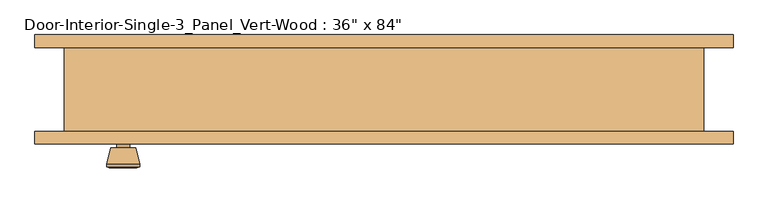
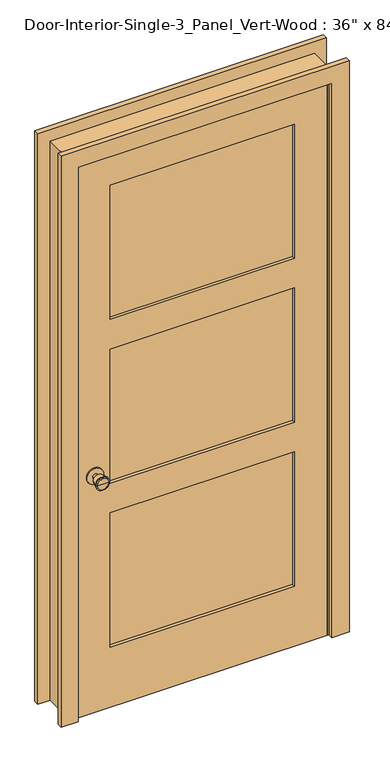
"""IFC4 building model written with IfcOpenShell, lengths in millimetres: door geometry."""

from ifc_helpers import new_model, si_unit, point, frame, frame_2d, origin, place, context, project, spatial, polyline, circle_curve, trimmed, segment, composite_curve, outline, extrude, faceted_brep, source, transform, mapped, element, save
from ifc_brep_helpers import plane_surface, cylinder_surface, revolved_surface, advanced_brep


def door_78a51fc2(model_context):
    return source(origin(), model_context, "Body", "SolidModel", [
        advanced_brep(
        [(-393.7, -19.4, 914.4), (-403.7, -19.4, 914.4), (-383.7, -19.4, 914.4), (-373.2241324, 29.6, 914.4), (-414.1758676, 29.6, 914.4), (-393.7, 29.6, 914.4), (-368.7, 27.7721319, 914.4), (-418.7, 27.7721319, 914.4), (-368.7, 24.3084537, 914.4), (-418.7, 24.3084537, 914.4), (-375.063764, -0.4, 914.4), (-412.336236, -0.4, 914.4), (-383.7, -0.4, 914.4), (-403.7, -0.4, 914.4)],
        [
            (0, 1),
            (1, 2, circle_curve(frame((-393.7, -19.4, 914.4), z_axis=(0.0, -1.0, 0.0), x_axis=(-1.0, 0.0, 0.0)), 10.0)),
            (2, 0),
            (2, 1, circle_curve(frame((-393.7, -19.4, 914.4), z_axis=(0.0, -1.0, 0.0), x_axis=(-1.0, 0.0, 0.0)), 10.0)),
            (3, 4, circle_curve(frame((-393.7, 29.6, 914.4), z_axis=(0.0, 1.0, 0.0), x_axis=(-1.0, 0.0, 0.0)), 20.4758676)),
            (4, 5),
            (5, 3),
            (4, 3, circle_curve(frame((-393.7, 29.6, 914.4), z_axis=(0.0, 1.0, 0.0), x_axis=(-1.0, 0.0, 0.0)), 20.4758676)),
            (6, 7, circle_curve(frame((-393.7, 27.7721319, 914.4), z_axis=(0.0, 1.0, 0.0), x_axis=(-1.0, 0.0, 0.0)), 25.0)),
            (7, 4),
            (3, 6),
            (7, 6, circle_curve(frame((-393.7, 27.7721319, 914.4), z_axis=(0.0, 1.0, 0.0), x_axis=(-1.0, 0.0, 0.0)), 25.0)),
            (8, 9, circle_curve(frame((-393.7, 24.3084537, 914.4), z_axis=(0.0, 1.0, 0.0), x_axis=(-1.0, 0.0, 0.0)), 25.0)),
            (9, 7),
            (6, 8),
            (9, 8, circle_curve(frame((-393.7, 24.3084537, 914.4), z_axis=(0.0, 1.0, 0.0), x_axis=(-1.0, 0.0, 0.0)), 25.0)),
            (10, 11, circle_curve(frame((-393.7, -0.4, 914.4), z_axis=(0.0, 1.0, 0.0), x_axis=(-1.0, 0.0, 0.0)), 18.636236)),
            (11, 9),
            (8, 10),
            (11, 10, circle_curve(frame((-393.7, -0.4, 914.4), z_axis=(0.0, 1.0, 0.0), x_axis=(-1.0, 0.0, 0.0)), 18.636236)),
            (12, 13, circle_curve(frame((-393.7, -0.4, 914.4), z_axis=(0.0, 1.0, 0.0), x_axis=(-1.0, 0.0, 0.0)), 10.0)),
            (13, 11),
            (10, 12),
            (13, 12, circle_curve(frame((-393.7, -0.4, 914.4), z_axis=(0.0, 1.0, 0.0), x_axis=(-1.0, 0.0, 0.0)), 10.0)),
            (1, 13),
            (12, 2),
        ],
        [
            plane_surface(frame((-393.7, -19.4, 914.4), z_axis=(0.0, -1.0, 0.0), x_axis=(-1.0, 0.0, 0.0))),
            plane_surface(frame((-393.7, 29.6, 914.4), z_axis=(0.0, 1.0, 0.0), x_axis=(-1.0, 0.0, 0.0))),
            revolved_surface(polyline([(-414.1758676, 29.6, 914.4), (-418.7, 27.7721319, 914.4)]), (-393.7, -19.4, 914.4), (0.0, -1.0, 0.0)),
            cylinder_surface(frame((-393.7, -19.4, 914.4), z_axis=(0.0, -1.0, 0.0), x_axis=(-1.0, 0.0, 0.0)), 25.0),
            revolved_surface(polyline([(-418.7, 24.3084537, 914.4), (-412.336236, -0.4, 914.4)]), (-393.7, -19.4, 914.4), (0.0, -1.0, 0.0)),
            plane_surface(frame((-393.7, -0.4, 914.4), z_axis=(0.0, -1.0, 0.0), x_axis=(-1.0, 0.0, 0.0))),
            cylinder_surface(frame((-393.7, -19.4, 914.4), z_axis=(0.0, -1.0, 0.0), x_axis=(-1.0, 0.0, 0.0)), 10.0),
        ],
        [
            (0, [[1, 2, 3]]),
            (0, [[-3, 4, -1]]),
            (1, [[5, 6, 7]]),
            (1, [[8, -7, -6]]),
            (2, [[9, 10, -5, 11]]),
            (2, [[12, -11, -8, -10]]),
            (3, [[13, 14, -9, 15]]),
            (3, [[16, -15, -12, -14]]),
            (4, [[17, 18, -13, 19]]),
            (4, [[20, -19, -16, -18]]),
            (5, [[21, 22, -17, 23]]),
            (5, [[24, -23, -20, -22]]),
            (6, [[-2, 25, -21, 26]]),
            (6, [[-4, -26, -24, -25]]),
        ],
    ),
        extrude(outline(composite_curve([segment(trimmed(circle_curve(frame_2d((914.4, -393.7)), 30.0), [point((914.4, -423.7))], [point((914.4, -363.7))], False, "CARTESIAN"), True, "CONTINUOUS"), segment(trimmed(circle_curve(frame_2d((914.4, -393.7)), 30.0), [point((914.4, -363.7))], [point((914.4, -423.7))], False, "CARTESIAN"), True, "CONTINUOUS")], self_intersect=False)), frame((0.0, -25.4, 0.0), z_axis=(0.0, 1.0, 0.0), x_axis=(0.0, 0.0, 1.0)), (0.0, 0.0, 1.0), 6.0),
        advanced_brep(
        [(-393.7, -66.325, 914.4), (-383.7, -66.325, 914.4), (-403.7, -66.325, 914.4), (-373.2241324, -115.325, 914.4), (-393.7, -115.325, 914.4), (-414.1758676, -115.325, 914.4), (-368.7, -113.4971319, 914.4), (-418.7, -113.4971319, 914.4), (-368.7, -110.0334537, 914.4), (-418.7, -110.0334537, 914.4), (-375.063764, -85.325, 914.4), (-412.336236, -85.325, 914.4), (-383.7, -85.325, 914.4), (-403.7, -85.325, 914.4)],
        [
            (0, 1),
            (1, 2, circle_curve(frame((-393.7, -66.325, 914.4), z_axis=(0.0, 1.0, 0.0), x_axis=(-1.0, 0.0, 0.0)), 10.0)),
            (2, 0),
            (2, 1, circle_curve(frame((-393.7, -66.325, 914.4), z_axis=(0.0, 1.0, 0.0), x_axis=(-1.0, 0.0, 0.0)), 10.0)),
            (3, 4),
            (4, 5),
            (5, 3, circle_curve(frame((-393.7, -115.325, 914.4), z_axis=(0.0, -1.0, 0.0), x_axis=(-1.0, 0.0, 0.0)), 20.4758676)),
            (3, 5, circle_curve(frame((-393.7, -115.325, 914.4), z_axis=(0.0, -1.0, 0.0), x_axis=(-1.0, 0.0, 0.0)), 20.4758676)),
            (6, 3),
            (5, 7),
            (7, 6, circle_curve(frame((-393.7, -113.4971319, 914.4), z_axis=(0.0, -1.0, 0.0), x_axis=(-1.0, 0.0, 0.0)), 25.0)),
            (6, 7, circle_curve(frame((-393.7, -113.4971319, 914.4), z_axis=(0.0, -1.0, 0.0), x_axis=(-1.0, 0.0, 0.0)), 25.0)),
            (8, 6),
            (7, 9),
            (9, 8, circle_curve(frame((-393.7, -110.0334537, 914.4), z_axis=(0.0, -1.0, 0.0), x_axis=(-1.0, 0.0, 0.0)), 25.0)),
            (8, 9, circle_curve(frame((-393.7, -110.0334537, 914.4), z_axis=(0.0, -1.0, 0.0), x_axis=(-1.0, 0.0, 0.0)), 25.0)),
            (10, 8),
            (9, 11),
            (11, 10, circle_curve(frame((-393.7, -85.325, 914.4), z_axis=(0.0, -1.0, 0.0), x_axis=(-1.0, 0.0, 0.0)), 18.636236)),
            (10, 11, circle_curve(frame((-393.7, -85.325, 914.4), z_axis=(0.0, -1.0, 0.0), x_axis=(-1.0, 0.0, 0.0)), 18.636236)),
            (12, 10),
            (11, 13),
            (13, 12, circle_curve(frame((-393.7, -85.325, 914.4), z_axis=(0.0, -1.0, 0.0), x_axis=(-1.0, 0.0, 0.0)), 10.0)),
            (12, 13, circle_curve(frame((-393.7, -85.325, 914.4), z_axis=(0.0, -1.0, 0.0), x_axis=(-1.0, 0.0, 0.0)), 10.0)),
            (1, 12),
            (13, 2),
        ],
        [
            plane_surface(frame((-393.7, -66.325, 914.4), z_axis=(0.0, 1.0, 0.0), x_axis=(-1.0, 0.0, 0.0))),
            plane_surface(frame((-393.7, -115.325, 914.4), z_axis=(0.0, -1.0, 0.0), x_axis=(-1.0, 0.0, 0.0))),
            revolved_surface(polyline([(-414.1758676, -115.325, 914.4), (-418.7, -113.4971319, 914.4)]), (-393.7, -66.325, 914.4), (0.0, 1.0, 0.0)),
            cylinder_surface(frame((-393.7, -66.325, 914.4), z_axis=(0.0, 1.0, 0.0), x_axis=(-1.0, 0.0, 0.0)), 25.0),
            revolved_surface(polyline([(-418.7, -110.0334537, 914.4), (-412.336236, -85.325, 914.4)]), (-393.7, -66.325, 914.4), (0.0, 1.0, 0.0)),
            plane_surface(frame((-393.7, -85.325, 914.4), z_axis=(0.0, 1.0, 0.0), x_axis=(-1.0, 0.0, 0.0))),
            cylinder_surface(frame((-393.7, -66.325, 914.4), z_axis=(0.0, 1.0, 0.0), x_axis=(-1.0, 0.0, 0.0)), 10.0),
        ],
        [
            (0, [[1, 2, 3]]),
            (0, [[-3, 4, -1]]),
            (1, [[5, 6, 7]]),
            (1, [[-6, -5, 8]]),
            (2, [[9, -7, 10, 11]]),
            (2, [[-10, -8, -9, 12]]),
            (3, [[13, -11, 14, 15]]),
            (3, [[-14, -12, -13, 16]]),
            (4, [[17, -15, 18, 19]]),
            (4, [[-18, -16, -17, 20]]),
            (5, [[21, -19, 22, 23]]),
            (5, [[-22, -20, -21, 24]]),
            (6, [[25, -23, 26, -2]]),
            (6, [[-26, -24, -25, -4]]),
        ],
    ),
        extrude(outline(composite_curve([segment(trimmed(circle_curve(frame_2d((914.4, -393.7)), 30.0), [point((914.4, -423.7))], [point((914.4, -363.7))], False, "CARTESIAN"), True, "CONTINUOUS"), segment(trimmed(circle_curve(frame_2d((914.4, -393.7)), 30.0), [point((914.4, -363.7))], [point((914.4, -423.7))], False, "CARTESIAN"), True, "CONTINUOUS")], self_intersect=False)), frame((0.0, -66.325, 0.0), z_axis=(0.0, 1.0, 0.0), x_axis=(0.0, 0.0, 1.0)), (0.0, 0.0, 1.0), 6.0),
        extrude(outline(polyline([(336.55, -37.0416667), (336.55, -48.6833333), (-336.55, -48.6833333), (-336.55, -37.0416667), (336.55, -37.0416667)])), frame((0.0, 0.0, 1496.4833333), z_axis=(0.0, 0.0, 1.0), x_axis=(1.0, 0.0, 0.0)), (0.0, 0.0, 1.0), 518.0541667),
        extrude(outline(polyline([(336.55, -37.0416667), (336.55, -48.6833333), (-336.55, -48.6833333), (-336.55, -37.0416667), (336.55, -37.0416667)])), frame((0.0, 0.0, 231.775), z_axis=(0.0, 0.0, 1.0), x_axis=(1.0, 0.0, 0.0)), (0.0, 0.0, 1.0), 518.0541667),
        extrude(outline(polyline([(336.55, -37.0416667), (336.55, -48.6833333), (-336.55, -48.6833333), (-336.55, -37.0416667), (336.55, -37.0416667)])), frame((0.0, 0.0, 864.1291667), z_axis=(0.0, 0.0, 1.0), x_axis=(1.0, 0.0, 0.0)), (0.0, 0.0, 1.0), 518.0541667),
        extrude(outline(polyline([(2133.6, -457.2), (0.0, -457.2), (0.0, 457.2), (2133.6, 457.2), (2133.6, -457.2)]), holes=[polyline([(2014.5375, -336.55), (2014.5375, 336.55), (1496.4833333, 336.55), (1496.4833333, -336.55), (2014.5375, -336.55)]), polyline([(749.8291667, -336.55), (749.8291667, 336.55), (231.775, 336.55), (231.775, -336.55), (749.8291667, -336.55)]), polyline([(1382.1833333, -336.55), (1382.1833333, 336.55), (864.1291667, 336.55), (864.1291667, -336.55), (1382.1833333, -336.55)])]), frame((0.0, -60.325, 0.0), z_axis=(0.0, 1.0, 0.0), x_axis=(0.0, 0.0, 1.0)), (0.0, 0.0, 1.0), 34.925),
        faceted_brep([(482.6, -60.325, 0.0), (457.2, -60.325, 0.0), (457.2, -25.4, 0.0), (444.5, -25.4, 0.0), (444.5, 9.525, 0.0), (457.2, 9.525, 0.0), (457.2, 66.675, 0.0), (482.6, 66.675, 0.0), (482.6, 66.675, 2159.0), (482.6, -60.325, 2159.0), (457.2, 66.675, 2133.6), (-457.2, 66.675, 2133.6), (-457.2, 66.675, 0.0), (-482.6, 66.675, 0.0), (-482.6, 66.675, 2159.0), (457.2, 9.525, 2133.6), (444.5, 9.525, 2120.9), (-444.5, 9.525, 2120.9), (-444.5, 9.525, 0.0), (-457.2, 9.525, 0.0), (-457.2, 9.525, 2133.6), (444.5, -25.4, 2120.9), (457.2, -25.4, 2133.6), (-457.2, -25.4, 2133.6), (-457.2, -25.4, 0.0), (-444.5, -25.4, 0.0), (-444.5, -25.4, 2120.9), (457.2, -60.325, 2133.6), (-482.6, -60.325, 2159.0), (-482.6, -60.325, 0.0), (-457.2, -60.325, 0.0), (-457.2, -60.325, 2133.6)], [[[0, 1, 2, 3, 4, 5, 6, 7]], [[7, 8, 9, 0]], [[6, 10, 11, 12, 13, 14, 8, 7]], [[5, 15, 10, 6]], [[4, 16, 17, 18, 19, 20, 15, 5]], [[3, 21, 16, 4]], [[2, 22, 23, 24, 25, 26, 21, 3]], [[1, 27, 22, 2]], [[0, 9, 28, 29, 30, 31, 27, 1]], [[8, 14, 28, 9]], [[15, 20, 11, 10]], [[21, 26, 17, 16]], [[27, 31, 23, 22]], [[29, 13, 12, 19, 18, 25, 24, 30]], [[14, 13, 29, 28]], [[20, 19, 12, 11]], [[26, 25, 18, 17]], [[31, 30, 24, 23]]]),
        extrude(outline(polyline([(0.0, 527.05), (2203.45, 527.05), (2203.45, -527.05), (0.0, -527.05), (0.0, -463.55), (2139.95, -463.55), (2139.95, 463.55), (0.0, 463.55), (0.0, 527.05)])), frame((0.0, 66.675, 0.0), z_axis=(0.0, 1.0, 0.0), x_axis=(0.0, 0.0, 1.0)), (0.0, 0.0, 1.0), 19.05),
        extrude(outline(polyline([(0.0, 527.05), (2203.45, 527.05), (2203.45, -527.05), (0.0, -527.05), (0.0, -463.55), (2139.95, -463.55), (2139.95, 463.55), (0.0, 463.55), (0.0, 527.05)])), frame((0.0, -79.375, 0.0), z_axis=(0.0, 1.0, 0.0), x_axis=(0.0, 0.0, 1.0)), (0.0, 0.0, 1.0), 19.05),
    ])


if __name__ == "__main__":
    model = new_model("IFC4")
    model_context = context("Model", 3, world=origin())
    ifc_project = project(units=[si_unit("LENGTHUNIT", "METRE", prefix="MILLI")], contexts=[model_context])
    site = spatial("IfcSite", under=ifc_project)
    building = spatial("IfcBuilding", under=site)
    placement = place(None, origin())
    door_shape = door_78a51fc2(model_context)
    element("IfcDoor", 1, ObjectType="Door-Interior-Single-3_Panel_Vert-Wood : 36\" x 84\"", at=placement, inside=building, context=model_context, shape_type="MappedRepresentation", body=[
        mapped(door_shape, transform((0.0, 0.0, 0.0), x_axis=(1.0, 0.0, 0.0), y_axis=(0.0, 1.0, 0.0), z_axis=(0.0, 0.0, 1.0))),
    ])
    save(model, "model.ifc")
